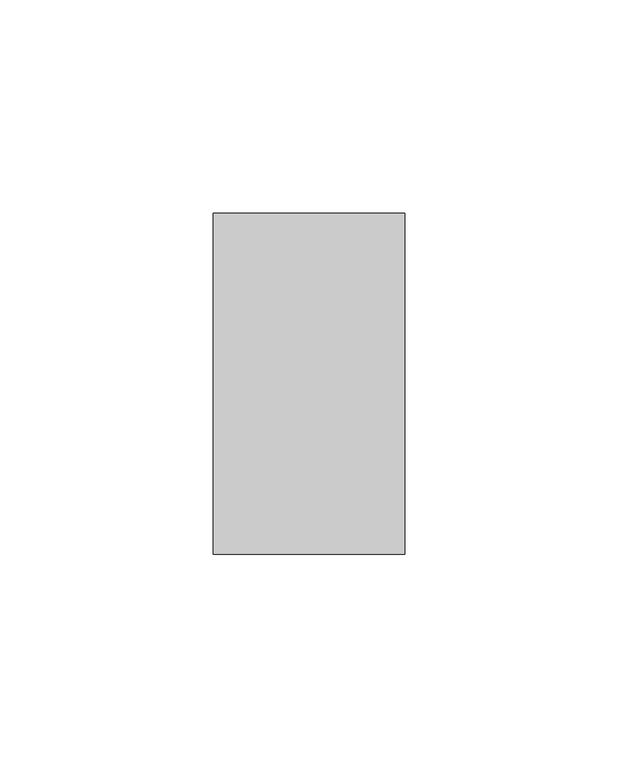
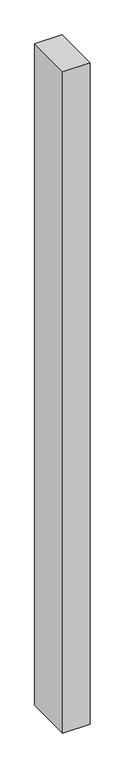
"""IFC4 building model written with IfcOpenShell, lengths in millimetres: member geometry, Obdélníková příčel : VERTI ELEMENT - vertikální."""

from ifc_helpers import new_model, si_unit, frame, origin, place, context, project, spatial, polyline, outline, extrude, source, transform, mapped, element, save


def member_b2391415(model_context):
    return source(origin(), model_context, "Body", "SweptSolid", [
        extrude(outline(polyline([(0.0, 40.0), (0.0, -40.0), (-45.0, -40.0), (-45.0, 40.0), (0.0, 40.0)])), frame((0.0, 0.0, -1155.0), z_axis=(0.0, 0.0, 1.0), x_axis=(1.0, 0.0, 0.0)), (0.0, 0.0, 1.0), 1155.0),
    ])


if __name__ == "__main__":
    model = new_model("IFC4")
    model_context = context("Model", 3, world=origin())
    ifc_project = project(units=[si_unit("LENGTHUNIT", "METRE", prefix="MILLI")], contexts=[model_context])
    site = spatial("IfcSite", under=ifc_project)
    building = spatial("IfcBuilding", under=site)
    placement = place(None, origin())
    member_shape = member_b2391415(model_context)
    element("IfcMember", 1, ObjectType="Obdélníková příčel : VERTI ELEMENT - vertikální", at=placement, inside=building, context=model_context, shape_type="MappedRepresentation", body=[
        mapped(member_shape, transform((0.0, 0.0, 0.0), x_axis=(1.0, 0.0, 0.0), y_axis=(0.0, 1.0, 0.0), z_axis=(0.0, 0.0, 1.0))),
    ])
    save(model, "model.ifc")
